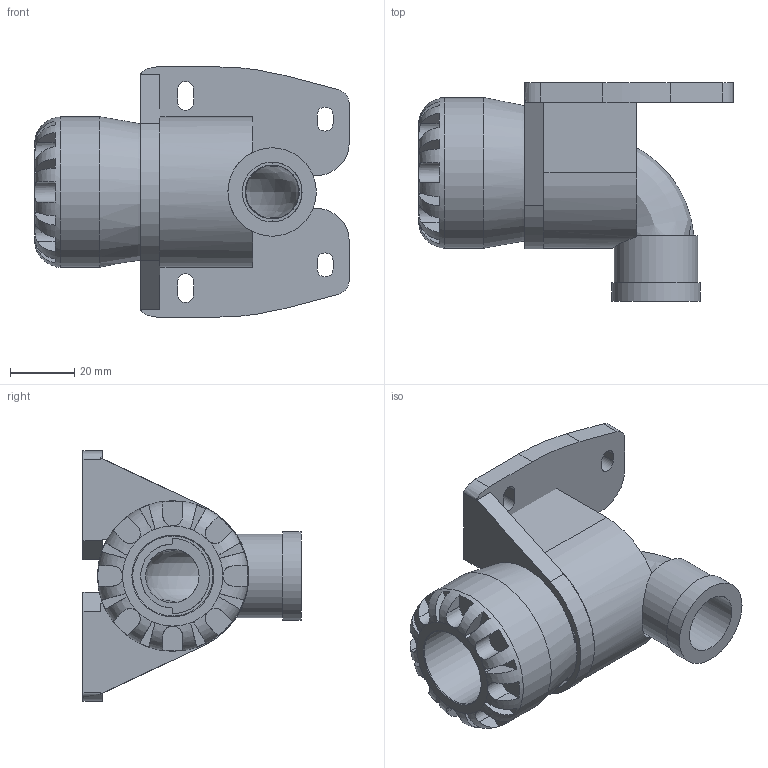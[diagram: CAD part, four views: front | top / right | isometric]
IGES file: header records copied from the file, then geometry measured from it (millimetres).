
Global section: file name: 107500025005.ipt; native system: Autodesk Inventor 2015; preprocessor: unknown; author: KIM; date: 20170122.114649; units: millimetre
Bounding box: 98 x 68 x 78 mm (x, y, z)
Volume: 111323 mm3; surface area: 41660.2 mm2
Topology: 2 solids, 2 shells, 161 faces, 445 edges, 292 vertices
Faces by surface type: plane 102, revolution 30, cylinder 15, bspline 14
Full cylindrical faces by diameter (mm): 26.083 x1, 27.574 x1, 41.36 x1, 47 x1
